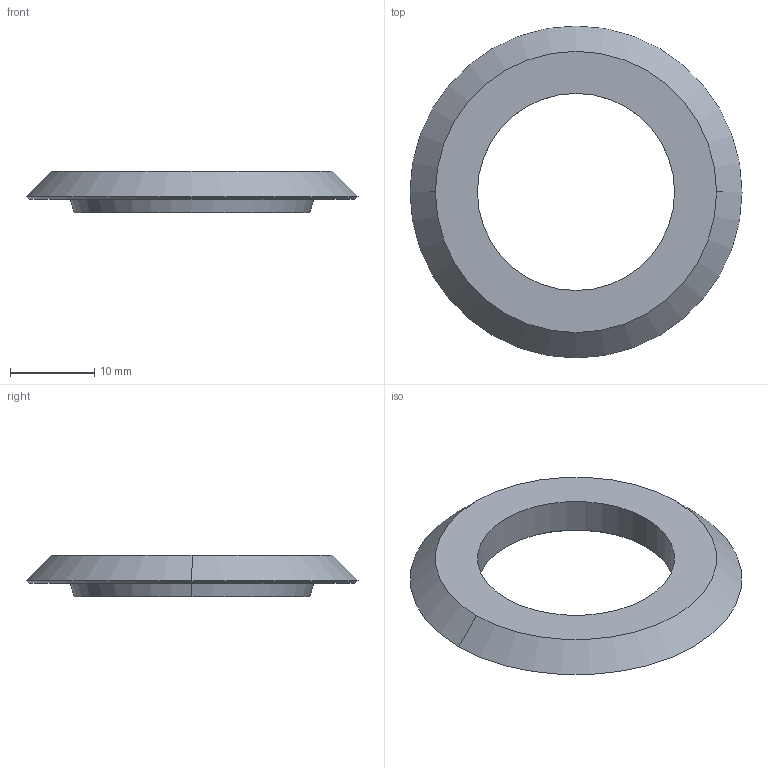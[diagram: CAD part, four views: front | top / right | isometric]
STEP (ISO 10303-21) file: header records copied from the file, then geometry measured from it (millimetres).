
FILE_DESCRIPTION (( 'STEP AP214' ), '1' );
FILE_NAME ('V-0025B - Motor Coupler Vring - v2.2.1 (thin base and short fin)_DfM.STEP', '2026-06-12T21:49:36', ( '' ), ( '' ), 'SwSTEP 2.0', 'SolidWorks 2023', '' );
FILE_SCHEMA (( 'AUTOMOTIVE_DESIGN' ));
Length unit declared in the file: inch
Products named in the file (1): V-0025B - Motor Coupler Vring - v2.2.1 (thin base and short fin)_DfM
Bounding box: 39.48 x 39.48 x 4.9 mm (x, y, z)
Volume: 1853.1 mm3; surface area: 2379.6 mm2
Topology: 1 solids, 1 shells, 16 faces, 32 edges, 20 vertices
Faces by surface type: cone 8, plane 4, cylinder 4
Entity records: 455 total; most frequent: DIRECTION 86, CARTESIAN_POINT 69, ORIENTED_EDGE 64, AXIS2_PLACEMENT_3D 37, EDGE_CURVE 32, VERTEX_POINT 20, CIRCLE 20, EDGE_LOOP 20
